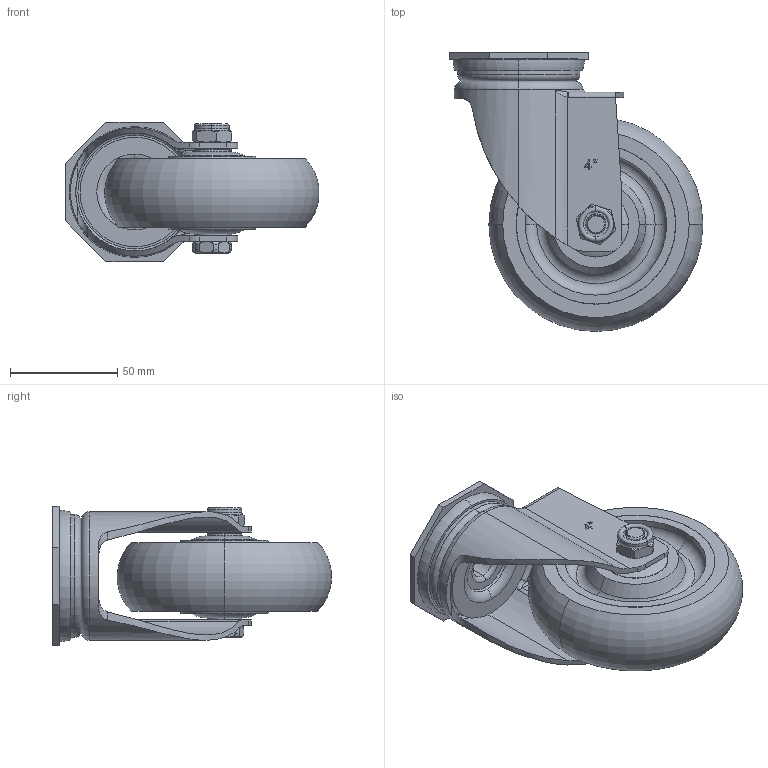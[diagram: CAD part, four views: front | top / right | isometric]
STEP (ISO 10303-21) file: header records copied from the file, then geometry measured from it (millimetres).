
FILE_DESCRIPTION (( 'STEP AP203' ), '1' );
FILE_NAME ('4寸孔顶万向.STEP', '2024-03-19T03:38:42', ( '微软用户' ), ( '微软中国' ), 'SwSTEP 2.0', 'SolidWorks 2008', '' );
FILE_SCHEMA (( 'CONFIG_CONTROL_DESIGN' ));
Length unit declared in the file: millimetre
Products named in the file (6): 2023-3-8  中型4寸万向支架_默认; 孔顶_默认; M10蹟譫; M10-55蹟裝; 4渡謂階勀砃; 100×32轮子_默认
Assembly tree (5 placements, depth 2):
  4渡謂階勀砃
    M10-55蹟裝
    2023-3-8  中型4寸万向支架_默认
    100×32轮子_默认
    M10蹟譫
    孔顶_默认
Bounding box: 118.42 x 130.03 x 65.01 mm (x, y, z)
Volume: 286832.2 mm3; surface area: 77197.1 mm2
Topology: 5 solids, 5 shells, 506 faces, 1282 edges, 831 vertices
Faces by surface type: plane 224, cylinder 116, bspline 94, torus 52, cone 20
Entity records: 22717 total; most frequent: CARTESIAN_POINT 10574, ORIENTED_EDGE 2556, DIRECTION 2110, EDGE_CURVE 1278, VERTEX_POINT 831, AXIS2_PLACEMENT_3D 720, VECTOR 670, LINE 670
